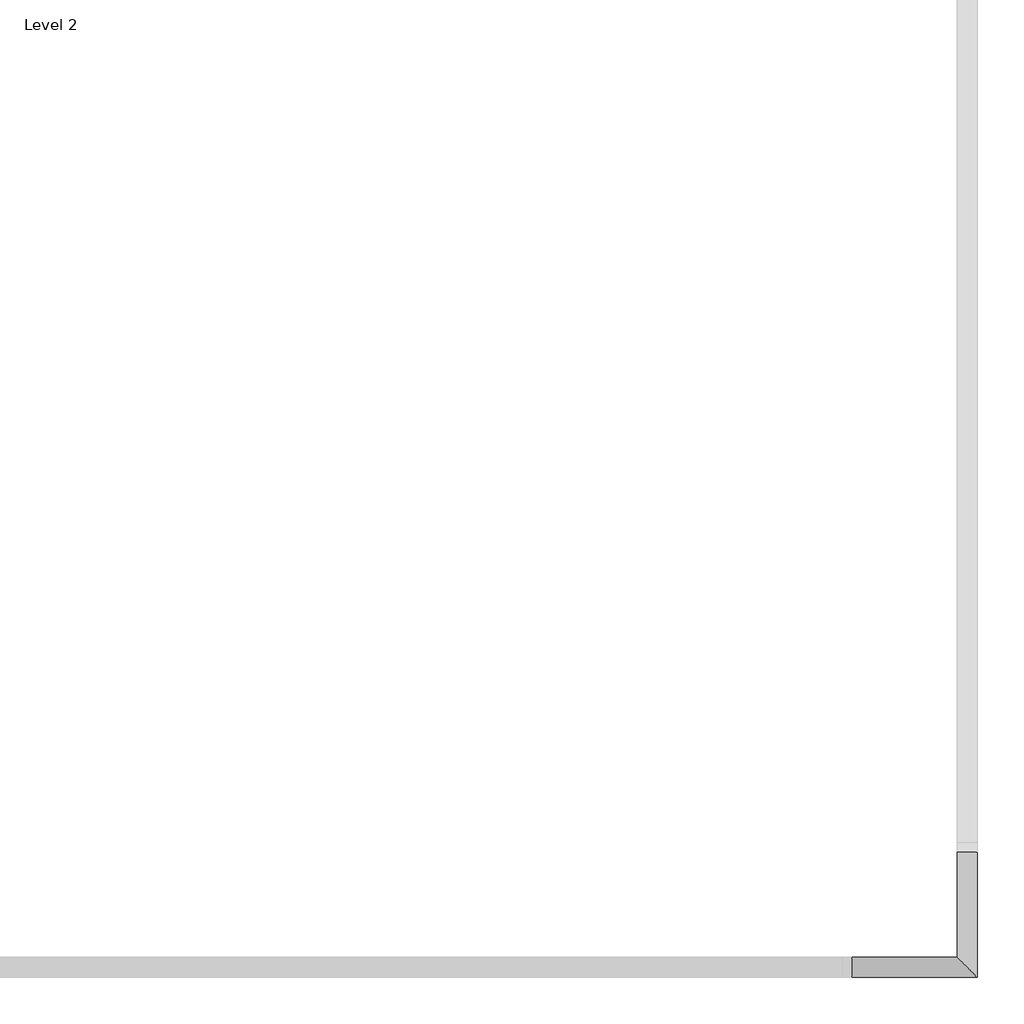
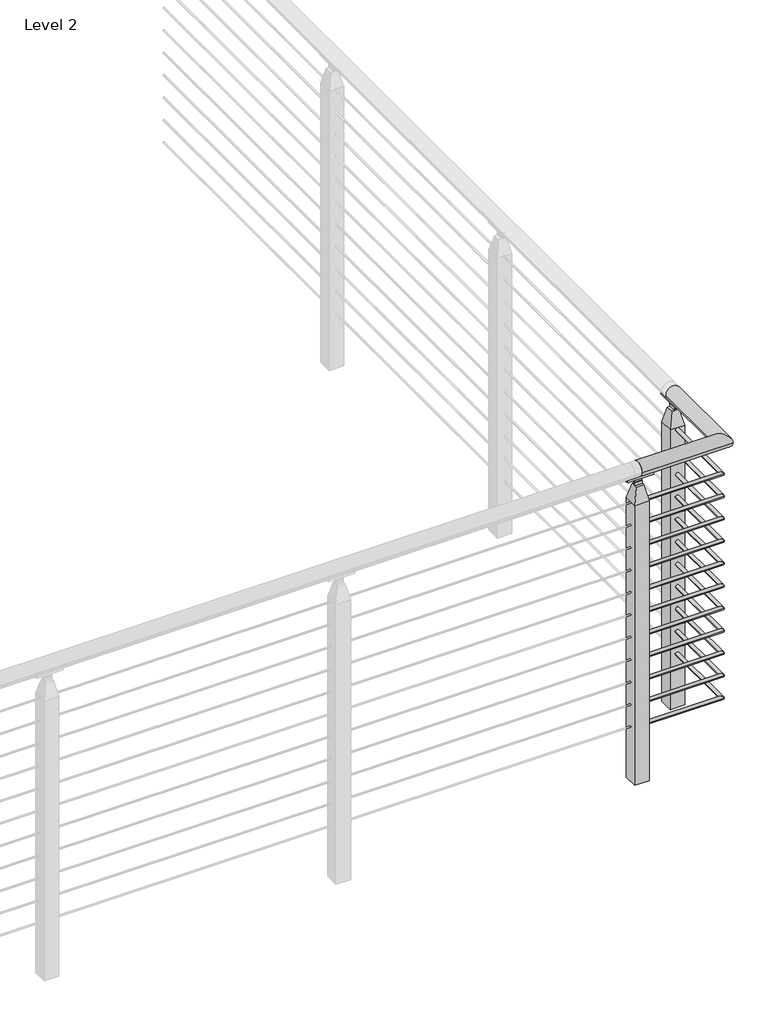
# One storey, part 12 of 17: 1 railing.
"""IFC4 building model written with IfcOpenShell, lengths in millimetres."""

from ifc_helpers import new_model, si_unit, point, frame, frame_2d, origin, place, context, project, spatial, polyline, circle_curve, ellipse_curve, trimmed, segment, composite_curve, outline, extrude, faceted_brep, element, save
from ifc_brep_helpers import plane_surface, cylinder_surface, revolved_surface, advanced_brep

model = new_model("IFC4")

# Units and contexts
model_context = context("Model", 3, world=origin())
ifc_project = project(units=[si_unit("LENGTHUNIT", "METRE", prefix="MILLI")], contexts=[model_context])

# Site, building, storey
site = spatial("IfcSite", under=ifc_project)
building = spatial("IfcBuilding", under=site)
storey = spatial("IfcBuildingStorey", under=building, Name="Level 2", Elevation=3048.0)

# Railing
placement = place(None, origin())
element("IfcRailing", 1, ObjectType="VIVA-CUBE-Cable-Weld Mount-Corner", at=placement, inside=storey, context=model_context, shape_type="SolidModel", body=[
    advanced_brep(
    [(46220.9199014, -52244.4426165, 4102.1), (46220.9199014, -52193.6426165, 4102.1), (46538.4199014, -52244.4426165, 4102.1), (46487.6199014, -52193.6426165, 4102.1), (46538.4199014, -51926.9426165, 4102.1), (46487.6199014, -51926.9426165, 4102.1)],
    [
        (0, 1, circle_curve(frame((46220.9199014, -52219.0426165, 4102.1), z_axis=(-1.0, 0.0, 0.0), x_axis=(0.0, 1.0, 0.0)), 25.4)),
        (1, 0, circle_curve(frame((46220.9199014, -52219.0426165, 4102.1), z_axis=(-1.0, 0.0, 0.0), x_axis=(0.0, 1.0, 0.0)), 25.4)),
        (0, 2),
        (2, 3, ellipse_curve(frame((46513.0199014, -52219.0426165, 4102.1), z_axis=(-0.7071067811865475, -0.7071067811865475, 0.0), x_axis=(-0.7071067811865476, 0.7071067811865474, 0.0)), 35.9210245, 25.4)),
        (3, 1),
        (3, 2, ellipse_curve(frame((46513.0199014, -52219.0426165, 4102.1), z_axis=(-0.7071067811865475, -0.7071067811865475, 0.0), x_axis=(-0.7071067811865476, 0.7071067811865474, 0.0)), 35.9210245, 25.4)),
        (4, 5, circle_curve(frame((46513.0199014, -51926.9426165, 4102.1), z_axis=(0.0, 1.0, 0.0), x_axis=(-1.0, 0.0, 0.0)), 25.4)),
        (5, 4, circle_curve(frame((46513.0199014, -51926.9426165, 4102.1), z_axis=(0.0, 1.0, 0.0), x_axis=(-1.0, 0.0, 0.0)), 25.4)),
        (2, 4),
        (5, 3),
    ],
    [
        plane_surface(frame((46220.9199014, -52219.0426165, 4127.5), z_axis=(-1.0, 0.0, 0.0), x_axis=(0.0, 1.0, 0.0))),
        cylinder_surface(frame((46220.9199014, -52219.0426165, 4102.1), z_axis=(-1.0, 0.0, 0.0), x_axis=(0.0, 1.0, 0.0)), 25.4),
        plane_surface(frame((46513.0199014, -51926.9426165, 4127.5), z_axis=(0.0, 1.0, 0.0), x_axis=(0.0, 0.0, 1.0))),
        cylinder_surface(frame((46513.0199014, -52219.0426165, 4102.1), z_axis=(0.0, -1.0, 0.0), x_axis=(-1.0, 0.0, 0.0)), 25.4),
    ],
    [
        (0, [[1, 2]]),
        (1, [[-1, 3, 4, 5]]),
        (1, [[-2, -5, 6, -3]]),
        (2, [[7, 8]]),
        (3, [[-4, 9, -8, 10]]),
        (3, [[-6, -10, -7, -9]]),
    ],
),
    advanced_brep(
    [(46220.9199014, -52212.6926165, 3981.45), (46220.9199014, -52225.3926165, 3981.45), (46506.6699014, -52212.6926165, 3981.45), (46519.3699014, -52225.3926165, 3981.45), (46506.6699014, -51926.9426165, 3981.45), (46519.3699014, -51926.9426165, 3981.45)],
    [
        (0, 1, circle_curve(frame((46220.9199014, -52219.0426165, 3981.45), z_axis=(-1.0, 0.0, 0.0), x_axis=(0.0, -1.0, 0.0)), 6.35)),
        (1, 0, circle_curve(frame((46220.9199014, -52219.0426165, 3981.45), z_axis=(-1.0, 0.0, 0.0), x_axis=(0.0, -1.0, 0.0)), 6.35)),
        (0, 2),
        (2, 3, ellipse_curve(frame((46513.0199014, -52219.0426165, 3981.45), z_axis=(-0.7071067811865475, -0.7071067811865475, 0.0), x_axis=(-0.7071067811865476, 0.7071067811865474, 0.0)), 8.9802561, 6.35)),
        (3, 1),
        (3, 2, ellipse_curve(frame((46513.0199014, -52219.0426165, 3981.45), z_axis=(-0.7071067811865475, -0.7071067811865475, 0.0), x_axis=(-0.7071067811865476, 0.7071067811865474, 0.0)), 8.9802561, 6.35)),
        (4, 5, circle_curve(frame((46513.0199014, -51926.9426165, 3981.45), z_axis=(0.0, 1.0, 0.0), x_axis=(1.0, 0.0, 0.0)), 6.35)),
        (5, 4, circle_curve(frame((46513.0199014, -51926.9426165, 3981.45), z_axis=(0.0, 1.0, 0.0), x_axis=(1.0, 0.0, 0.0)), 6.35)),
        (2, 4),
        (5, 3),
    ],
    [
        plane_surface(frame((46220.9199014, -52219.0426165, 3987.8), z_axis=(-1.0, 0.0, 0.0), x_axis=(0.0, 1.0, 0.0))),
        cylinder_surface(frame((46220.9199014, -52219.0426165, 3981.45), z_axis=(-1.0, 0.0, 0.0), x_axis=(0.0, -1.0, 0.0)), 6.35),
        plane_surface(frame((46513.0199014, -51926.9426165, 3987.8), z_axis=(0.0, 1.0, 0.0), x_axis=(0.0, 0.0, 1.0))),
        cylinder_surface(frame((46513.0199014, -52219.0426165, 3981.45), z_axis=(0.0, -1.0, 0.0), x_axis=(1.0, 0.0, 0.0)), 6.35),
    ],
    [
        (0, [[1, 2]]),
        (1, [[-1, 3, 4, 5]]),
        (1, [[-2, -5, 6, -3]]),
        (2, [[7, 8]]),
        (3, [[-4, 9, -8, 10]]),
        (3, [[-6, -10, -7, -9]]),
    ],
),
    advanced_brep(
    [(46220.9199014, -52212.6926165, 3898.9), (46220.9199014, -52225.3926165, 3898.9), (46506.6699014, -52212.6926165, 3898.9), (46519.3699014, -52225.3926165, 3898.9), (46506.6699014, -51926.9426165, 3898.9), (46519.3699014, -51926.9426165, 3898.9)],
    [
        (0, 1, circle_curve(frame((46220.9199014, -52219.0426165, 3898.9), z_axis=(-1.0, 0.0, 0.0), x_axis=(0.0, -1.0, 0.0)), 6.35)),
        (1, 0, circle_curve(frame((46220.9199014, -52219.0426165, 3898.9), z_axis=(-1.0, 0.0, 0.0), x_axis=(0.0, -1.0, 0.0)), 6.35)),
        (0, 2),
        (2, 3, ellipse_curve(frame((46513.0199014, -52219.0426165, 3898.9), z_axis=(-0.7071067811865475, -0.7071067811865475, 0.0), x_axis=(-0.7071067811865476, 0.7071067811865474, 0.0)), 8.9802561, 6.35)),
        (3, 1),
        (3, 2, ellipse_curve(frame((46513.0199014, -52219.0426165, 3898.9), z_axis=(-0.7071067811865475, -0.7071067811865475, 0.0), x_axis=(-0.7071067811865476, 0.7071067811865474, 0.0)), 8.9802561, 6.35)),
        (4, 5, circle_curve(frame((46513.0199014, -51926.9426165, 3898.9), z_axis=(0.0, 1.0, 0.0), x_axis=(1.0, 0.0, 0.0)), 6.35)),
        (5, 4, circle_curve(frame((46513.0199014, -51926.9426165, 3898.9), z_axis=(0.0, 1.0, 0.0), x_axis=(1.0, 0.0, 0.0)), 6.35)),
        (2, 4),
        (5, 3),
    ],
    [
        plane_surface(frame((46220.9199014, -52219.0426165, 3905.25), z_axis=(-1.0, 0.0, 0.0), x_axis=(0.0, 1.0, 0.0))),
        cylinder_surface(frame((46220.9199014, -52219.0426165, 3898.9), z_axis=(-1.0, 0.0, 0.0), x_axis=(0.0, -1.0, 0.0)), 6.35),
        plane_surface(frame((46513.0199014, -51926.9426165, 3905.25), z_axis=(0.0, 1.0, 0.0), x_axis=(0.0, 0.0, 1.0))),
        cylinder_surface(frame((46513.0199014, -52219.0426165, 3898.9), z_axis=(0.0, -1.0, 0.0), x_axis=(1.0, 0.0, 0.0)), 6.35),
    ],
    [
        (0, [[1, 2]]),
        (1, [[-1, 3, 4, 5]]),
        (1, [[-2, -5, 6, -3]]),
        (2, [[7, 8]]),
        (3, [[-4, 9, -8, 10]]),
        (3, [[-6, -10, -7, -9]]),
    ],
),
    advanced_brep(
    [(46220.9199014, -52212.6926165, 3816.35), (46220.9199014, -52225.3926165, 3816.35), (46506.6699014, -52212.6926165, 3816.35), (46519.3699014, -52225.3926165, 3816.35), (46506.6699014, -51926.9426165, 3816.35), (46519.3699014, -51926.9426165, 3816.35)],
    [
        (0, 1, circle_curve(frame((46220.9199014, -52219.0426165, 3816.35), z_axis=(-1.0, 0.0, 0.0), x_axis=(0.0, -1.0, 0.0)), 6.35)),
        (1, 0, circle_curve(frame((46220.9199014, -52219.0426165, 3816.35), z_axis=(-1.0, 0.0, 0.0), x_axis=(0.0, -1.0, 0.0)), 6.35)),
        (0, 2),
        (2, 3, ellipse_curve(frame((46513.0199014, -52219.0426165, 3816.35), z_axis=(-0.7071067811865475, -0.7071067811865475, 0.0), x_axis=(-0.7071067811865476, 0.7071067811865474, 0.0)), 8.9802561, 6.35)),
        (3, 1),
        (3, 2, ellipse_curve(frame((46513.0199014, -52219.0426165, 3816.35), z_axis=(-0.7071067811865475, -0.7071067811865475, 0.0), x_axis=(-0.7071067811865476, 0.7071067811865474, 0.0)), 8.9802561, 6.35)),
        (4, 5, circle_curve(frame((46513.0199014, -51926.9426165, 3816.35), z_axis=(0.0, 1.0, 0.0), x_axis=(1.0, 0.0, 0.0)), 6.35)),
        (5, 4, circle_curve(frame((46513.0199014, -51926.9426165, 3816.35), z_axis=(0.0, 1.0, 0.0), x_axis=(1.0, 0.0, 0.0)), 6.35)),
        (2, 4),
        (5, 3),
    ],
    [
        plane_surface(frame((46220.9199014, -52219.0426165, 3822.7), z_axis=(-1.0, 0.0, 0.0), x_axis=(0.0, 1.0, 0.0))),
        cylinder_surface(frame((46220.9199014, -52219.0426165, 3816.35), z_axis=(-1.0, 0.0, 0.0), x_axis=(0.0, -1.0, 0.0)), 6.35),
        plane_surface(frame((46513.0199014, -51926.9426165, 3822.7), z_axis=(0.0, 1.0, 0.0), x_axis=(0.0, 0.0, 1.0))),
        cylinder_surface(frame((46513.0199014, -52219.0426165, 3816.35), z_axis=(0.0, -1.0, 0.0), x_axis=(1.0, 0.0, 0.0)), 6.35),
    ],
    [
        (0, [[1, 2]]),
        (1, [[-1, 3, 4, 5]]),
        (1, [[-2, -5, 6, -3]]),
        (2, [[7, 8]]),
        (3, [[-4, 9, -8, 10]]),
        (3, [[-6, -10, -7, -9]]),
    ],
),
    advanced_brep(
    [(46220.9199014, -52212.6926165, 3733.8), (46220.9199014, -52225.3926165, 3733.8), (46506.6699014, -52212.6926165, 3733.8), (46519.3699014, -52225.3926165, 3733.8), (46506.6699014, -51926.9426165, 3733.8), (46519.3699014, -51926.9426165, 3733.8)],
    [
        (0, 1, circle_curve(frame((46220.9199014, -52219.0426165, 3733.8), z_axis=(-1.0, 0.0, 0.0), x_axis=(0.0, -1.0, 0.0)), 6.35)),
        (1, 0, circle_curve(frame((46220.9199014, -52219.0426165, 3733.8), z_axis=(-1.0, 0.0, 0.0), x_axis=(0.0, -1.0, 0.0)), 6.35)),
        (0, 2),
        (2, 3, ellipse_curve(frame((46513.0199014, -52219.0426165, 3733.8), z_axis=(-0.7071067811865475, -0.7071067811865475, 0.0), x_axis=(-0.7071067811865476, 0.7071067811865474, 0.0)), 8.9802561, 6.35)),
        (3, 1),
        (3, 2, ellipse_curve(frame((46513.0199014, -52219.0426165, 3733.8), z_axis=(-0.7071067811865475, -0.7071067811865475, 0.0), x_axis=(-0.7071067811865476, 0.7071067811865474, 0.0)), 8.9802561, 6.35)),
        (4, 5, circle_curve(frame((46513.0199014, -51926.9426165, 3733.8), z_axis=(0.0, 1.0, 0.0), x_axis=(1.0, 0.0, 0.0)), 6.35)),
        (5, 4, circle_curve(frame((46513.0199014, -51926.9426165, 3733.8), z_axis=(0.0, 1.0, 0.0), x_axis=(1.0, 0.0, 0.0)), 6.35)),
        (2, 4),
        (5, 3),
    ],
    [
        plane_surface(frame((46220.9199014, -52219.0426165, 3740.15), z_axis=(-1.0, 0.0, 0.0), x_axis=(0.0, 1.0, 0.0))),
        cylinder_surface(frame((46220.9199014, -52219.0426165, 3733.8), z_axis=(-1.0, 0.0, 0.0), x_axis=(0.0, -1.0, 0.0)), 6.35),
        plane_surface(frame((46513.0199014, -51926.9426165, 3740.15), z_axis=(0.0, 1.0, 0.0), x_axis=(0.0, 0.0, 1.0))),
        cylinder_surface(frame((46513.0199014, -52219.0426165, 3733.8), z_axis=(0.0, -1.0, 0.0), x_axis=(1.0, 0.0, 0.0)), 6.35),
    ],
    [
        (0, [[1, 2]]),
        (1, [[-1, 3, 4, 5]]),
        (1, [[-2, -5, 6, -3]]),
        (2, [[7, 8]]),
        (3, [[-4, 9, -8, 10]]),
        (3, [[-6, -10, -7, -9]]),
    ],
),
    advanced_brep(
    [(46220.9199014, -52212.6926165, 3651.25), (46220.9199014, -52225.3926165, 3651.25), (46506.6699014, -52212.6926165, 3651.25), (46519.3699014, -52225.3926165, 3651.25), (46506.6699014, -51926.9426165, 3651.25), (46519.3699014, -51926.9426165, 3651.25)],
    [
        (0, 1, circle_curve(frame((46220.9199014, -52219.0426165, 3651.25), z_axis=(-1.0, 0.0, 0.0), x_axis=(0.0, -1.0, 0.0)), 6.35)),
        (1, 0, circle_curve(frame((46220.9199014, -52219.0426165, 3651.25), z_axis=(-1.0, 0.0, 0.0), x_axis=(0.0, -1.0, 0.0)), 6.35)),
        (0, 2),
        (2, 3, ellipse_curve(frame((46513.0199014, -52219.0426165, 3651.25), z_axis=(-0.7071067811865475, -0.7071067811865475, 0.0), x_axis=(-0.7071067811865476, 0.7071067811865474, 0.0)), 8.9802561, 6.35)),
        (3, 1),
        (3, 2, ellipse_curve(frame((46513.0199014, -52219.0426165, 3651.25), z_axis=(-0.7071067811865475, -0.7071067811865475, 0.0), x_axis=(-0.7071067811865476, 0.7071067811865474, 0.0)), 8.9802561, 6.35)),
        (4, 5, circle_curve(frame((46513.0199014, -51926.9426165, 3651.25), z_axis=(0.0, 1.0, 0.0), x_axis=(1.0, 0.0, 0.0)), 6.35)),
        (5, 4, circle_curve(frame((46513.0199014, -51926.9426165, 3651.25), z_axis=(0.0, 1.0, 0.0), x_axis=(1.0, 0.0, 0.0)), 6.35)),
        (2, 4),
        (5, 3),
    ],
    [
        plane_surface(frame((46220.9199014, -52219.0426165, 3657.6), z_axis=(-1.0, 0.0, 0.0), x_axis=(0.0, 1.0, 0.0))),
        cylinder_surface(frame((46220.9199014, -52219.0426165, 3651.25), z_axis=(-1.0, 0.0, 0.0), x_axis=(0.0, -1.0, 0.0)), 6.35),
        plane_surface(frame((46513.0199014, -51926.9426165, 3657.6), z_axis=(0.0, 1.0, 0.0), x_axis=(0.0, 0.0, 1.0))),
        cylinder_surface(frame((46513.0199014, -52219.0426165, 3651.25), z_axis=(0.0, -1.0, 0.0), x_axis=(1.0, 0.0, 0.0)), 6.35),
    ],
    [
        (0, [[1, 2]]),
        (1, [[-1, 3, 4, 5]]),
        (1, [[-2, -5, 6, -3]]),
        (2, [[7, 8]]),
        (3, [[-4, 9, -8, 10]]),
        (3, [[-6, -10, -7, -9]]),
    ],
),
    advanced_brep(
    [(46220.9199014, -52212.6926165, 3568.7), (46220.9199014, -52225.3926165, 3568.7), (46506.6699014, -52212.6926165, 3568.7), (46519.3699014, -52225.3926165, 3568.7), (46506.6699014, -51926.9426165, 3568.7), (46519.3699014, -51926.9426165, 3568.7)],
    [
        (0, 1, circle_curve(frame((46220.9199014, -52219.0426165, 3568.7), z_axis=(-1.0, 0.0, 0.0), x_axis=(0.0, -1.0, 0.0)), 6.35)),
        (1, 0, circle_curve(frame((46220.9199014, -52219.0426165, 3568.7), z_axis=(-1.0, 0.0, 0.0), x_axis=(0.0, -1.0, 0.0)), 6.35)),
        (0, 2),
        (2, 3, ellipse_curve(frame((46513.0199014, -52219.0426165, 3568.7), z_axis=(-0.7071067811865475, -0.7071067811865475, 0.0), x_axis=(-0.7071067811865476, 0.7071067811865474, 0.0)), 8.9802561, 6.35)),
        (3, 1),
        (3, 2, ellipse_curve(frame((46513.0199014, -52219.0426165, 3568.7), z_axis=(-0.7071067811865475, -0.7071067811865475, 0.0), x_axis=(-0.7071067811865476, 0.7071067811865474, 0.0)), 8.9802561, 6.35)),
        (4, 5, circle_curve(frame((46513.0199014, -51926.9426165, 3568.7), z_axis=(0.0, 1.0, 0.0), x_axis=(1.0, 0.0, 0.0)), 6.35)),
        (5, 4, circle_curve(frame((46513.0199014, -51926.9426165, 3568.7), z_axis=(0.0, 1.0, 0.0), x_axis=(1.0, 0.0, 0.0)), 6.35)),
        (2, 4),
        (5, 3),
    ],
    [
        plane_surface(frame((46220.9199014, -52219.0426165, 3575.05), z_axis=(-1.0, 0.0, 0.0), x_axis=(0.0, 1.0, 0.0))),
        cylinder_surface(frame((46220.9199014, -52219.0426165, 3568.7), z_axis=(-1.0, 0.0, 0.0), x_axis=(0.0, -1.0, 0.0)), 6.35),
        plane_surface(frame((46513.0199014, -51926.9426165, 3575.05), z_axis=(0.0, 1.0, 0.0), x_axis=(0.0, 0.0, 1.0))),
        cylinder_surface(frame((46513.0199014, -52219.0426165, 3568.7), z_axis=(0.0, -1.0, 0.0), x_axis=(1.0, 0.0, 0.0)), 6.35),
    ],
    [
        (0, [[1, 2]]),
        (1, [[-1, 3, 4, 5]]),
        (1, [[-2, -5, 6, -3]]),
        (2, [[7, 8]]),
        (3, [[-4, 9, -8, 10]]),
        (3, [[-6, -10, -7, -9]]),
    ],
),
    advanced_brep(
    [(46220.9199014, -52212.6926165, 3486.15), (46220.9199014, -52225.3926165, 3486.15), (46506.6699014, -52212.6926165, 3486.15), (46519.3699014, -52225.3926165, 3486.15), (46506.6699014, -51926.9426165, 3486.15), (46519.3699014, -51926.9426165, 3486.15)],
    [
        (0, 1, circle_curve(frame((46220.9199014, -52219.0426165, 3486.15), z_axis=(-1.0, 0.0, 0.0), x_axis=(0.0, -1.0, 0.0)), 6.35)),
        (1, 0, circle_curve(frame((46220.9199014, -52219.0426165, 3486.15), z_axis=(-1.0, 0.0, 0.0), x_axis=(0.0, -1.0, 0.0)), 6.35)),
        (0, 2),
        (2, 3, ellipse_curve(frame((46513.0199014, -52219.0426165, 3486.15), z_axis=(-0.7071067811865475, -0.7071067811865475, 0.0), x_axis=(-0.7071067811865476, 0.7071067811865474, 0.0)), 8.9802561, 6.35)),
        (3, 1),
        (3, 2, ellipse_curve(frame((46513.0199014, -52219.0426165, 3486.15), z_axis=(-0.7071067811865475, -0.7071067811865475, 0.0), x_axis=(-0.7071067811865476, 0.7071067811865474, 0.0)), 8.9802561, 6.35)),
        (4, 5, circle_curve(frame((46513.0199014, -51926.9426165, 3486.15), z_axis=(0.0, 1.0, 0.0), x_axis=(1.0, 0.0, 0.0)), 6.35)),
        (5, 4, circle_curve(frame((46513.0199014, -51926.9426165, 3486.15), z_axis=(0.0, 1.0, 0.0), x_axis=(1.0, 0.0, 0.0)), 6.35)),
        (2, 4),
        (5, 3),
    ],
    [
        plane_surface(frame((46220.9199014, -52219.0426165, 3492.5), z_axis=(-1.0, 0.0, 0.0), x_axis=(0.0, 1.0, 0.0))),
        cylinder_surface(frame((46220.9199014, -52219.0426165, 3486.15), z_axis=(-1.0, 0.0, 0.0), x_axis=(0.0, -1.0, 0.0)), 6.35),
        plane_surface(frame((46513.0199014, -51926.9426165, 3492.5), z_axis=(0.0, 1.0, 0.0), x_axis=(0.0, 0.0, 1.0))),
        cylinder_surface(frame((46513.0199014, -52219.0426165, 3486.15), z_axis=(0.0, -1.0, 0.0), x_axis=(1.0, 0.0, 0.0)), 6.35),
    ],
    [
        (0, [[1, 2]]),
        (1, [[-1, 3, 4, 5]]),
        (1, [[-2, -5, 6, -3]]),
        (2, [[7, 8]]),
        (3, [[-4, 9, -8, 10]]),
        (3, [[-6, -10, -7, -9]]),
    ],
),
    advanced_brep(
    [(46220.9199014, -52212.6926165, 3403.6), (46220.9199014, -52225.3926165, 3403.6), (46506.6699014, -52212.6926165, 3403.6), (46519.3699014, -52225.3926165, 3403.6), (46506.6699014, -51926.9426165, 3403.6), (46519.3699014, -51926.9426165, 3403.6)],
    [
        (0, 1, circle_curve(frame((46220.9199014, -52219.0426165, 3403.6), z_axis=(-1.0, 0.0, 0.0), x_axis=(0.0, -1.0, 0.0)), 6.35)),
        (1, 0, circle_curve(frame((46220.9199014, -52219.0426165, 3403.6), z_axis=(-1.0, 0.0, 0.0), x_axis=(0.0, -1.0, 0.0)), 6.35)),
        (0, 2),
        (2, 3, ellipse_curve(frame((46513.0199014, -52219.0426165, 3403.6), z_axis=(-0.7071067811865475, -0.7071067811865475, 0.0), x_axis=(-0.7071067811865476, 0.7071067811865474, 0.0)), 8.9802561, 6.35)),
        (3, 1),
        (3, 2, ellipse_curve(frame((46513.0199014, -52219.0426165, 3403.6), z_axis=(-0.7071067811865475, -0.7071067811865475, 0.0), x_axis=(-0.7071067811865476, 0.7071067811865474, 0.0)), 8.9802561, 6.35)),
        (4, 5, circle_curve(frame((46513.0199014, -51926.9426165, 3403.6), z_axis=(0.0, 1.0, 0.0), x_axis=(1.0, 0.0, 0.0)), 6.35)),
        (5, 4, circle_curve(frame((46513.0199014, -51926.9426165, 3403.6), z_axis=(0.0, 1.0, 0.0), x_axis=(1.0, 0.0, 0.0)), 6.35)),
        (2, 4),
        (5, 3),
    ],
    [
        plane_surface(frame((46220.9199014, -52219.0426165, 3409.95), z_axis=(-1.0, 0.0, 0.0), x_axis=(0.0, 1.0, 0.0))),
        cylinder_surface(frame((46220.9199014, -52219.0426165, 3403.6), z_axis=(-1.0, 0.0, 0.0), x_axis=(0.0, -1.0, 0.0)), 6.35),
        plane_surface(frame((46513.0199014, -51926.9426165, 3409.95), z_axis=(0.0, 1.0, 0.0), x_axis=(0.0, 0.0, 1.0))),
        cylinder_surface(frame((46513.0199014, -52219.0426165, 3403.6), z_axis=(0.0, -1.0, 0.0), x_axis=(1.0, 0.0, 0.0)), 6.35),
    ],
    [
        (0, [[1, 2]]),
        (1, [[-1, 3, 4, 5]]),
        (1, [[-2, -5, 6, -3]]),
        (2, [[7, 8]]),
        (3, [[-4, 9, -8, 10]]),
        (3, [[-6, -10, -7, -9]]),
    ],
),
    advanced_brep(
    [(46220.9199014, -52212.6926165, 3321.05), (46220.9199014, -52225.3926165, 3321.05), (46506.6699014, -52212.6926165, 3321.05), (46519.3699014, -52225.3926165, 3321.05), (46506.6699014, -51926.9426165, 3321.05), (46519.3699014, -51926.9426165, 3321.05)],
    [
        (0, 1, circle_curve(frame((46220.9199014, -52219.0426165, 3321.05), z_axis=(-1.0, 0.0, 0.0), x_axis=(0.0, -1.0, 0.0)), 6.35)),
        (1, 0, circle_curve(frame((46220.9199014, -52219.0426165, 3321.05), z_axis=(-1.0, 0.0, 0.0), x_axis=(0.0, -1.0, 0.0)), 6.35)),
        (0, 2),
        (2, 3, ellipse_curve(frame((46513.0199014, -52219.0426165, 3321.05), z_axis=(-0.7071067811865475, -0.7071067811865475, 0.0), x_axis=(-0.7071067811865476, 0.7071067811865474, 0.0)), 8.9802561, 6.35)),
        (3, 1),
        (3, 2, ellipse_curve(frame((46513.0199014, -52219.0426165, 3321.05), z_axis=(-0.7071067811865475, -0.7071067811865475, 0.0), x_axis=(-0.7071067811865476, 0.7071067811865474, 0.0)), 8.9802561, 6.35)),
        (4, 5, circle_curve(frame((46513.0199014, -51926.9426165, 3321.05), z_axis=(0.0, 1.0, 0.0), x_axis=(1.0, 0.0, 0.0)), 6.35)),
        (5, 4, circle_curve(frame((46513.0199014, -51926.9426165, 3321.05), z_axis=(0.0, 1.0, 0.0), x_axis=(1.0, 0.0, 0.0)), 6.35)),
        (2, 4),
        (5, 3),
    ],
    [
        plane_surface(frame((46220.9199014, -52219.0426165, 3327.4), z_axis=(-1.0, 0.0, 0.0), x_axis=(0.0, 1.0, 0.0))),
        cylinder_surface(frame((46220.9199014, -52219.0426165, 3321.05), z_axis=(-1.0, 0.0, 0.0), x_axis=(0.0, -1.0, 0.0)), 6.35),
        plane_surface(frame((46513.0199014, -51926.9426165, 3327.4), z_axis=(0.0, 1.0, 0.0), x_axis=(0.0, 0.0, 1.0))),
        cylinder_surface(frame((46513.0199014, -52219.0426165, 3321.05), z_axis=(0.0, -1.0, 0.0), x_axis=(1.0, 0.0, 0.0)), 6.35),
    ],
    [
        (0, [[1, 2]]),
        (1, [[-1, 3, 4, 5]]),
        (1, [[-2, -5, 6, -3]]),
        (2, [[7, 8]]),
        (3, [[-4, 9, -8, 10]]),
        (3, [[-6, -10, -7, -9]]),
    ],
),
    advanced_brep(
    [(46220.9199014, -52212.6926165, 3238.5), (46220.9199014, -52225.3926165, 3238.5), (46506.6699014, -52212.6926165, 3238.5), (46519.3699014, -52225.3926165, 3238.5), (46506.6699014, -51926.9426165, 3238.5), (46519.3699014, -51926.9426165, 3238.5)],
    [
        (0, 1, circle_curve(frame((46220.9199014, -52219.0426165, 3238.5), z_axis=(-1.0, 0.0, 0.0), x_axis=(0.0, -1.0, 0.0)), 6.35)),
        (1, 0, circle_curve(frame((46220.9199014, -52219.0426165, 3238.5), z_axis=(-1.0, 0.0, 0.0), x_axis=(0.0, -1.0, 0.0)), 6.35)),
        (0, 2),
        (2, 3, ellipse_curve(frame((46513.0199014, -52219.0426165, 3238.5), z_axis=(-0.7071067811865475, -0.7071067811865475, 0.0), x_axis=(-0.7071067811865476, 0.7071067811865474, 0.0)), 8.9802561, 6.35)),
        (3, 1),
        (3, 2, ellipse_curve(frame((46513.0199014, -52219.0426165, 3238.5), z_axis=(-0.7071067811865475, -0.7071067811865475, 0.0), x_axis=(-0.7071067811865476, 0.7071067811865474, 0.0)), 8.9802561, 6.35)),
        (4, 5, circle_curve(frame((46513.0199014, -51926.9426165, 3238.5), z_axis=(0.0, 1.0, 0.0), x_axis=(1.0, 0.0, 0.0)), 6.35)),
        (5, 4, circle_curve(frame((46513.0199014, -51926.9426165, 3238.5), z_axis=(0.0, 1.0, 0.0), x_axis=(1.0, 0.0, 0.0)), 6.35)),
        (2, 4),
        (5, 3),
    ],
    [
        plane_surface(frame((46220.9199014, -52219.0426165, 3244.85), z_axis=(-1.0, 0.0, 0.0), x_axis=(0.0, 1.0, 0.0))),
        cylinder_surface(frame((46220.9199014, -52219.0426165, 3238.5), z_axis=(-1.0, 0.0, 0.0), x_axis=(0.0, -1.0, 0.0)), 6.35),
        plane_surface(frame((46513.0199014, -51926.9426165, 3244.85), z_axis=(0.0, 1.0, 0.0), x_axis=(0.0, 0.0, 1.0))),
        cylinder_surface(frame((46513.0199014, -52219.0426165, 3238.5), z_axis=(0.0, -1.0, 0.0), x_axis=(1.0, 0.0, 0.0)), 6.35),
    ],
    [
        (0, [[1, 2]]),
        (1, [[-1, 3, 4, 5]]),
        (1, [[-2, -5, 6, -3]]),
        (2, [[7, 8]]),
        (3, [[-4, 9, -8, 10]]),
        (3, [[-6, -10, -7, -9]]),
    ],
),
    advanced_brep(
    [(46220.9199014, -52212.6926165, 3155.95), (46220.9199014, -52225.3926165, 3155.95), (46506.6699014, -52212.6926165, 3155.95), (46519.3699014, -52225.3926165, 3155.95), (46506.6699014, -51926.9426165, 3155.95), (46519.3699014, -51926.9426165, 3155.95)],
    [
        (0, 1, circle_curve(frame((46220.9199014, -52219.0426165, 3155.95), z_axis=(-1.0, 0.0, 0.0), x_axis=(0.0, -1.0, 0.0)), 6.35)),
        (1, 0, circle_curve(frame((46220.9199014, -52219.0426165, 3155.95), z_axis=(-1.0, 0.0, 0.0), x_axis=(0.0, -1.0, 0.0)), 6.35)),
        (0, 2),
        (2, 3, ellipse_curve(frame((46513.0199014, -52219.0426165, 3155.95), z_axis=(-0.7071067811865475, -0.7071067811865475, 0.0), x_axis=(-0.7071067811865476, 0.7071067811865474, 0.0)), 8.9802561, 6.35)),
        (3, 1),
        (3, 2, ellipse_curve(frame((46513.0199014, -52219.0426165, 3155.95), z_axis=(-0.7071067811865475, -0.7071067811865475, 0.0), x_axis=(-0.7071067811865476, 0.7071067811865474, 0.0)), 8.9802561, 6.35)),
        (4, 5, circle_curve(frame((46513.0199014, -51926.9426165, 3155.95), z_axis=(0.0, 1.0, 0.0), x_axis=(1.0, 0.0, 0.0)), 6.35)),
        (5, 4, circle_curve(frame((46513.0199014, -51926.9426165, 3155.95), z_axis=(0.0, 1.0, 0.0), x_axis=(1.0, 0.0, 0.0)), 6.35)),
        (2, 4),
        (5, 3),
    ],
    [
        plane_surface(frame((46220.9199014, -52219.0426165, 3162.3), z_axis=(-1.0, 0.0, 0.0), x_axis=(0.0, 1.0, 0.0))),
        cylinder_surface(frame((46220.9199014, -52219.0426165, 3155.95), z_axis=(-1.0, 0.0, 0.0), x_axis=(0.0, -1.0, 0.0)), 6.35),
        plane_surface(frame((46513.0199014, -51926.9426165, 3162.3), z_axis=(0.0, 1.0, 0.0), x_axis=(0.0, 0.0, 1.0))),
        cylinder_surface(frame((46513.0199014, -52219.0426165, 3155.95), z_axis=(0.0, -1.0, 0.0), x_axis=(1.0, 0.0, 0.0)), 6.35),
    ],
    [
        (0, [[1, 2]]),
        (1, [[-1, 3, 4, 5]]),
        (1, [[-2, -5, 6, -3]]),
        (2, [[7, 8]]),
        (3, [[-4, 9, -8, 10]]),
        (3, [[-6, -10, -7, -9]]),
    ],
),
    faceted_brep([(46500.3199014, -51913.8457415, 4045.2902749), (46500.3199014, -51939.2457415, 4045.2902749), (46509.0511514, -51939.2457415, 4045.2902749), (46509.0511514, -51913.8457415, 4045.2902749), (46525.7199014, -51939.2457415, 4045.2902749), (46525.7199014, -51913.8457415, 4045.2902749), (46516.9886514, -51913.8457415, 4045.2902749), (46516.9886514, -51939.2457415, 4045.2902749), (46487.6199014, -51901.1457415, 3989.1347854), (46538.4199014, -51901.1457415, 3989.1347854), (46487.6199014, -51951.9457415, 3989.1347854), (46538.4199014, -51951.9457415, 3989.1347854), (46487.6199014, -51901.1457415, 2959.1), (46538.4199014, -51901.1457415, 2959.1), (46538.4199014, -51951.9457415, 2959.1), (46487.6199014, -51951.9457415, 2959.1), (46516.9886514, -51939.2457415, 4057.3306013), (46516.9886514, -51913.8457415, 4057.3306013), (46509.0511514, -51913.8457415, 4057.3306013), (46509.0511514, -51939.2457415, 4057.3306013)], [[[0, 1, 2, 3]], [[4, 5, 6, 7]], [[8, 0, 3, 6, 5, 9]], [[1, 0, 8, 10]], [[1, 10, 11, 4, 7, 2]], [[5, 4, 11, 9]], [[12, 13, 14, 15]], [[12, 15, 10, 8]], [[15, 14, 11, 10]], [[14, 13, 9, 11]], [[13, 12, 8, 9]], [[16, 17, 18, 19]], [[17, 16, 7, 6]], [[18, 17, 6, 3]], [[19, 18, 3, 2]], [[16, 19, 2, 7]]]),
    extrude(outline(composite_curve([segment(trimmed(circle_curve(frame_2d((4102.1433184, 46512.923173)), 25.4345159), [point((4080.0284941, 46525.4869759))], [point((4079.9335733, 46500.5279392))], True, "CARTESIAN"), True, "CONTINUOUS"), segment(trimmed(circle_curve(frame_2d((4077.4310885, 46499.2832861)), 2.7949225), [point((4079.9335733, 46500.5279392))], [point((4075.0585031, 46497.805981))], False, "CARTESIAN"), True, "CONTINUOUS"), segment(trimmed(circle_curve(frame_2d((4102.905945, 46513.0566361)), 31.75), [point((4075.0585031, 46497.805981))], [point((4075.6392616, 46529.3228733))], False, "CARTESIAN"), True, "CONTINUOUS"), segment(trimmed(circle_curve(frame_2d((4077.5101807, 46527.0345335)), 2.9558141), [point((4075.6392616, 46529.3228733))], [point((4080.0284941, 46525.4869759))], False, "CARTESIAN"), True, "CONTINUOUS")], self_intersect=False)), frame((0.0, -51971.7831415, 0.0), z_axis=(0.0, 1.0, 0.0), x_axis=(0.0, 0.0, 1.0)), (0.0, 0.0, 1.0), 90.4748),
    advanced_brep(
    [(46510.4799014, -51899.4778267, 4071.3685171), (46510.4799014, -51913.8457415, 4057.0006022), (46510.4799014, -51939.2457415, 4057.0006022), (46510.4799014, -51953.6136564, 4071.3685171), (46515.5599014, -51899.4778267, 4071.3685171), (46515.5599014, -51953.6136564, 4071.3685171), (46515.5599014, -51939.2457415, 4057.0006022), (46515.5599014, -51913.8457415, 4057.0006022)],
    [
        (0, 1, circle_curve(frame((46510.4799014, -51899.4778267, 4057.0006022), z_axis=(1.0, 0.0, 0.0), x_axis=(0.0, -1.0, 0.0)), 14.3679149)),
        (1, 2, circle_curve(frame((46510.4799014, -51926.5457415, 4057.0006022), z_axis=(-1.0, 0.0, 0.0), x_axis=(0.0, -1.0, 0.0)), 12.7)),
        (2, 3, circle_curve(frame((46510.4799014, -51953.6136564, 4057.0006022), z_axis=(1.0, 0.0, 0.0), x_axis=(0.0, -1.0, 0.0)), 14.3679149)),
        (3, 0),
        (4, 5),
        (5, 6, circle_curve(frame((46515.5599014, -51953.6136564, 4057.0006022), z_axis=(-1.0, 0.0, 0.0), x_axis=(0.0, -1.0, 0.0)), 14.3679149)),
        (6, 7, circle_curve(frame((46515.5599014, -51926.5457415, 4057.0006022), z_axis=(1.0, 0.0, 0.0), x_axis=(0.0, -1.0, 0.0)), 12.7)),
        (7, 4, circle_curve(frame((46515.5599014, -51899.4778267, 4057.0006022), z_axis=(-1.0, 0.0, 0.0), x_axis=(0.0, -1.0, 0.0)), 14.3679149)),
        (0, 4),
        (7, 1),
        (6, 2),
        (5, 3),
    ],
    [
        plane_surface(frame((46510.4799014, -51913.8457415, 4057.0006022), z_axis=(-1.0, 0.0, 0.0), x_axis=(0.0, 0.0, -1.0))),
        plane_surface(frame((46515.5599014, -51913.8457415, 4057.0006022), z_axis=(1.0, 0.0, 0.0), x_axis=(0.0, 0.0, 1.0))),
        revolved_surface(polyline([(46515.5599014, -51913.8457416, 4057.0006022), (46510.4799014, -51913.8457416, 4057.0006022)]), (46515.5599014, -51899.4778267, 4057.0006022), (1.0, 0.0, 0.0)),
        cylinder_surface(frame((46515.5599014, -51926.5457415, 4057.0006022), z_axis=(-1.0, 0.0, 0.0), x_axis=(0.0, -1.0, 0.0)), 12.7),
        revolved_surface(polyline([(46515.5599014, -51967.9815713, 4057.0006022), (46510.4799014, -51967.9815713, 4057.0006022)]), (46515.5599014, -51953.6136564, 4057.0006022), (1.0, 0.0, 0.0)),
        plane_surface(frame((46510.4799014, -51953.6136564, 4071.3685171), z_axis=(0.0, 0.0, 1.0), x_axis=(1.0, 0.0, 0.0))),
    ],
    [
        (0, [[1, 2, 3, 4]]),
        (1, [[5, 6, 7, 8]]),
        (2, [[-1, 9, -8, 10]]),
        (3, [[-2, -10, -7, 11]]),
        (4, [[-3, -11, -6, 12]]),
        (5, [[-4, -12, -5, -9]]),
    ],
),
    faceted_brep([(46234.0167764, -52206.3426165, 4045.2902749), (46208.6167764, -52206.3426165, 4045.2902749), (46208.6167764, -52215.0738665, 4045.2902749), (46234.0167764, -52215.0738665, 4045.2902749), (46208.6167764, -52231.7426165, 4045.2902749), (46234.0167764, -52231.7426165, 4045.2902749), (46234.0167764, -52223.0113665, 4045.2902749), (46208.6167764, -52223.0113665, 4045.2902749), (46246.7167764, -52193.6426165, 3989.1347854), (46246.7167764, -52244.4426165, 3989.1347854), (46195.9167764, -52193.6426165, 3989.1347854), (46195.9167764, -52244.4426165, 3989.1347854), (46246.7167764, -52193.6426165, 2959.1), (46246.7167764, -52244.4426165, 2959.1), (46195.9167764, -52244.4426165, 2959.1), (46195.9167764, -52193.6426165, 2959.1), (46208.6167764, -52223.0113665, 4057.3306013), (46234.0167764, -52223.0113665, 4057.3306013), (46234.0167764, -52215.0738665, 4057.3306013), (46208.6167764, -52215.0738665, 4057.3306013)], [[[0, 1, 2, 3]], [[4, 5, 6, 7]], [[8, 0, 3, 6, 5, 9]], [[1, 0, 8, 10]], [[1, 10, 11, 4, 7, 2]], [[5, 4, 11, 9]], [[12, 13, 14, 15]], [[12, 15, 10, 8]], [[15, 14, 11, 10]], [[14, 13, 9, 11]], [[13, 12, 8, 9]], [[16, 17, 18, 19]], [[17, 16, 7, 6]], [[18, 17, 6, 3]], [[19, 18, 3, 2]], [[16, 19, 2, 7]]]),
    extrude(outline(composite_curve([segment(trimmed(circle_curve(frame_2d((-52218.9458882, 4102.1433184)), 25.4345159), [point((-52231.5096911, 4080.0284941))], [point((-52206.5506544, 4079.9335733))], True, "CARTESIAN"), True, "CONTINUOUS"), segment(trimmed(circle_curve(frame_2d((-52205.3060013, 4077.4310885)), 2.7949225), [point((-52206.5506544, 4079.9335733))], [point((-52203.8286962, 4075.0585031))], False, "CARTESIAN"), True, "CONTINUOUS"), segment(trimmed(circle_curve(frame_2d((-52219.0793513, 4102.905945)), 31.75), [point((-52203.8286962, 4075.0585031))], [point((-52235.3455885, 4075.6392616))], False, "CARTESIAN"), True, "CONTINUOUS"), segment(trimmed(circle_curve(frame_2d((-52233.0572487, 4077.5101807)), 2.9558141), [point((-52235.3455885, 4075.6392616))], [point((-52231.5096911, 4080.0284941))], False, "CARTESIAN"), True, "CONTINUOUS")], self_intersect=False)), frame((46176.0793764, 0.0, 0.0), z_axis=(1.0, 0.0, 0.0), x_axis=(0.0, 1.0, 0.0)), (0.0, 0.0, 1.0), 90.4748),
    advanced_brep(
    [(46248.3846912, -52216.5026165, 4071.3685171), (46234.0167764, -52216.5026165, 4057.0006022), (46208.6167764, -52216.5026165, 4057.0006022), (46194.2488615, -52216.5026165, 4071.3685171), (46248.3846912, -52221.5826165, 4071.3685171), (46194.2488615, -52221.5826165, 4071.3685171), (46208.6167764, -52221.5826165, 4057.0006022), (46234.0167764, -52221.5826165, 4057.0006022)],
    [
        (0, 1, circle_curve(frame((46248.3846912, -52216.5026165, 4057.0006022), z_axis=(0.0, -1.0, 0.0), x_axis=(-1.0, 0.0, 0.0)), 14.3679149)),
        (1, 2, circle_curve(frame((46221.3167764, -52216.5026165, 4057.0006022), z_axis=(0.0, 1.0, 0.0), x_axis=(-1.0, 0.0, 0.0)), 12.7)),
        (2, 3, circle_curve(frame((46194.2488615, -52216.5026165, 4057.0006022), z_axis=(0.0, -1.0, 0.0), x_axis=(-1.0, 0.0, 0.0)), 14.3679149)),
        (3, 0),
        (4, 5),
        (5, 6, circle_curve(frame((46194.2488615, -52221.5826165, 4057.0006022), z_axis=(0.0, 1.0, 0.0), x_axis=(-1.0, 0.0, 0.0)), 14.3679149)),
        (6, 7, circle_curve(frame((46221.3167764, -52221.5826165, 4057.0006022), z_axis=(0.0, -1.0, 0.0), x_axis=(-1.0, 0.0, 0.0)), 12.7)),
        (7, 4, circle_curve(frame((46248.3846912, -52221.5826165, 4057.0006022), z_axis=(0.0, 1.0, 0.0), x_axis=(-1.0, 0.0, 0.0)), 14.3679149)),
        (0, 4),
        (7, 1),
        (6, 2),
        (5, 3),
    ],
    [
        plane_surface(frame((46234.0167764, -52216.5026165, 4057.0006022), z_axis=(0.0, 1.0, 0.0), x_axis=(0.0, 0.0, -1.0))),
        plane_surface(frame((46234.0167764, -52221.5826165, 4057.0006022), z_axis=(0.0, -1.0, 0.0), x_axis=(0.0, 0.0, 1.0))),
        revolved_surface(polyline([(46234.0167763, -52221.5826165, 4057.0006022), (46234.0167763, -52216.5026165, 4057.0006022)]), (46248.3846912, -52221.5826165, 4057.0006022), (0.0, -1.0, 0.0)),
        cylinder_surface(frame((46221.3167764, -52221.5826165, 4057.0006022), z_axis=(0.0, 1.0, 0.0), x_axis=(-1.0, 0.0, 0.0)), 12.7),
        revolved_surface(polyline([(46179.880946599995, -52221.5826165, 4057.0006022), (46179.880946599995, -52216.5026165, 4057.0006022)]), (46194.2488615, -52221.5826165, 4057.0006022), (0.0, -1.0, 0.0)),
        plane_surface(frame((46194.2488615, -52216.5026165, 4071.3685171), z_axis=(0.0, 0.0, 1.0), x_axis=(0.0, -1.0, 0.0))),
    ],
    [
        (0, [[1, 2, 3, 4]]),
        (1, [[5, 6, 7, 8]]),
        (2, [[-1, 9, -8, 10]]),
        (3, [[-2, -10, -7, 11]]),
        (4, [[-3, -11, -6, 12]]),
        (5, [[-4, -12, -5, -9]]),
    ],
),
])

save(model, "model.ifc")
